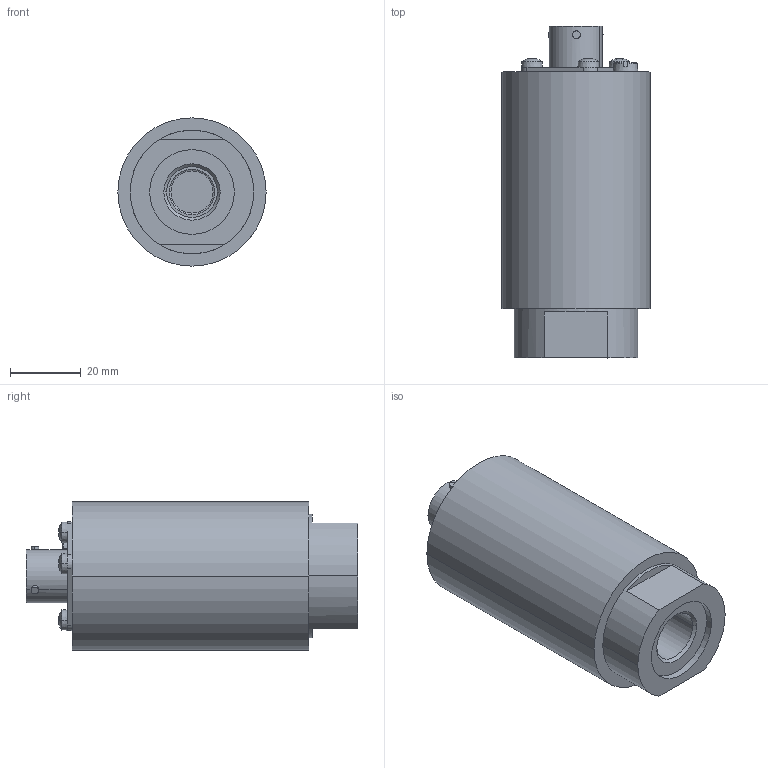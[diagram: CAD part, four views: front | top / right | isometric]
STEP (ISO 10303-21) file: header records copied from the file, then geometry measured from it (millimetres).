
FILE_DESCRIPTION(('STEP AP214'),'1');
FILE_NAME('burster_8201-5300-n021a_9bsjnry5l658z6zme7etif6s0.stp','2017-04-19T16:15:04',('TraceParts'),('TraceParts S.A.'),'Spatial InterOp 3D',' ',' ');
FILE_SCHEMA(('automotive_design'));
Length unit declared in the file: millimetre
Products named in the file (1): burster_8201-5300-n021a_9bsjnry5l658z6zme7etif6s0
Bounding box: 42 x 94.02 x 42 mm (x, y, z)
Volume: 99607.3 mm3; surface area: 20703.6 mm2
Topology: 1 solids, 17 shells, 358 faces, 830 edges, 529 vertices
Faces by surface type: cylinder 152, plane 130, cone 52, torus 16, sphere 8
Entity records: 13592 total; most frequent: CARTESIAN_POINT 2237, DIRECTION 1920, ORIENTED_EDGE 1652, EDGE_CURVE 826, AXIS2_PLACEMENT_3D 784, VERTEX_POINT 529, CIRCLE 425, EDGE_LOOP 415
